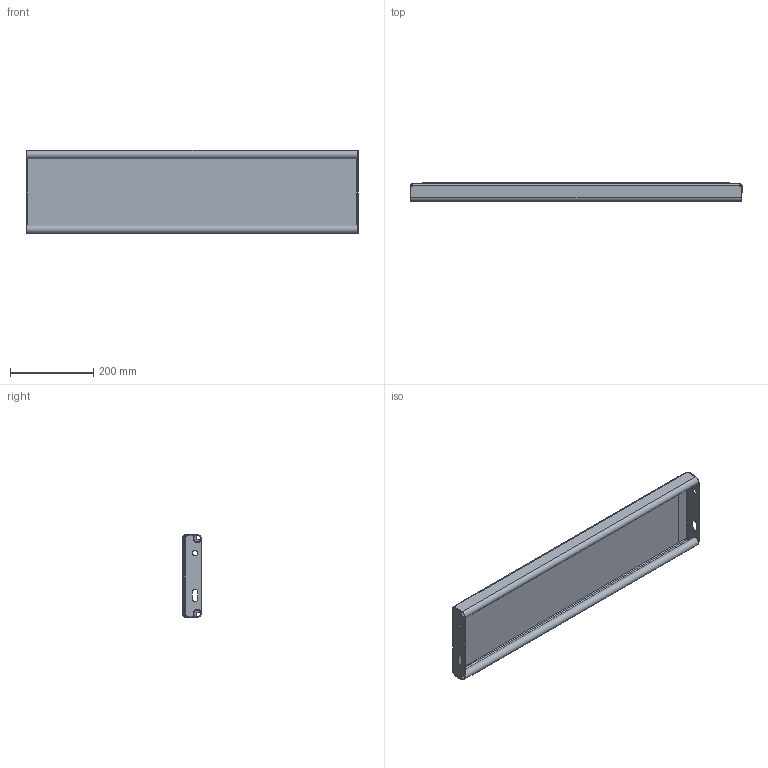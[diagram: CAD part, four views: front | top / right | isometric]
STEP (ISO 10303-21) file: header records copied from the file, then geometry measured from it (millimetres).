
FILE_DESCRIPTION (( 'STEP AP214' ), '1' );
FILE_NAME ('OPTIMO-Tread-Achil-O2-800x200x45x2-st240-F100150100-plain.STEP', '2021-03-15T10:26:09', ( '' ), ( '' ), 'SwSTEP 2.0', 'SolidWorks 2021', '' );
FILE_SCHEMA (( 'AUTOMOTIVE_DESIGN' ));
Length unit declared in the file: millimetre
Products named in the file (1): OPTIMO-Tread-Achil-O2-800x200x45x2-st240-F100150100-plain
Bounding box: 800 x 45 x 200 mm (x, y, z)
Volume: 1020019.5 mm3; surface area: 605023.7 mm2
Topology: 1 solids, 1 shells, 248 faces, 640 edges, 412 vertices
Faces by surface type: plane 173, bspline 39, cylinder 36
Entity records: 9924 total; most frequent: CARTESIAN_POINT 4092, ORIENTED_EDGE 1280, DIRECTION 1022, EDGE_CURVE 640, LINE 490, VECTOR 490, VERTEX_POINT 412, EDGE_LOOP 274
